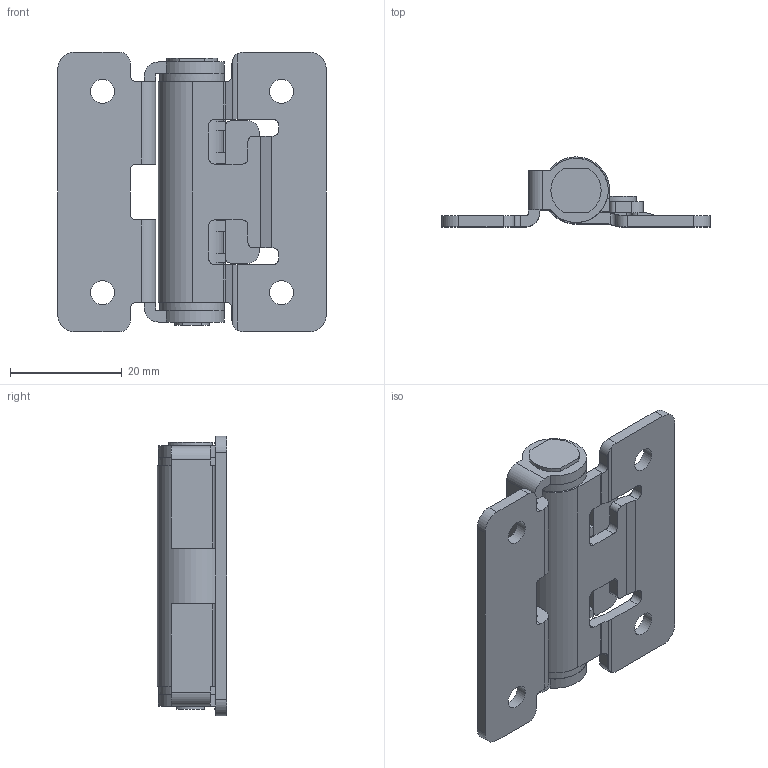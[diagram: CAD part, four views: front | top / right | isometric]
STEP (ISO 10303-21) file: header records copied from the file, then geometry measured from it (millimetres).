
FILE_DESCRIPTION(/* description */ ('STEP AP203'),/* implementation_level */ '2;1');
FILE_NAME(/* name */ 'HHPT15',/* time_stamp */ '2023-12-04T08:15:47+01:00',/* author */ ('License CC BY-ND 4.0'),/* organization */ ('CADENAS'),/* preprocessor_version */ 'ST-DEVELOPER v19.3',/* originating_system */ 'PARTsolutions',/* authorisation */ ' ');
FILE_SCHEMA (('CONFIG_CONTROL_DESIGN'));
Length unit declared in the file: millimetre
Products named in the file (3): HHPT15; HHPT15_p; HHPT15_b
Assembly tree (2 placements, depth 2):
  HHPT15
    HHPT15_p
    HHPT15_b
Bounding box: 48 x 12.5 x 50 mm (x, y, z)
Volume: 9273.3 mm3; surface area: 9242.6 mm2
Topology: 2 solids, 2 shells, 157 faces, 480 edges, 316 vertices
Faces by surface type: plane 96, cylinder 61
Full cylindrical faces by diameter (mm): 4.3 x4, 9 x2, 11.5 x1
Entity records: 5443 total; most frequent: CARTESIAN_POINT 980, ORIENTED_EDGE 936, DIRECTION 914, EDGE_CURVE 468, LINE 318, VECTOR 318, VERTEX_POINT 312, AXIS2_PLACEMENT_3D 298
